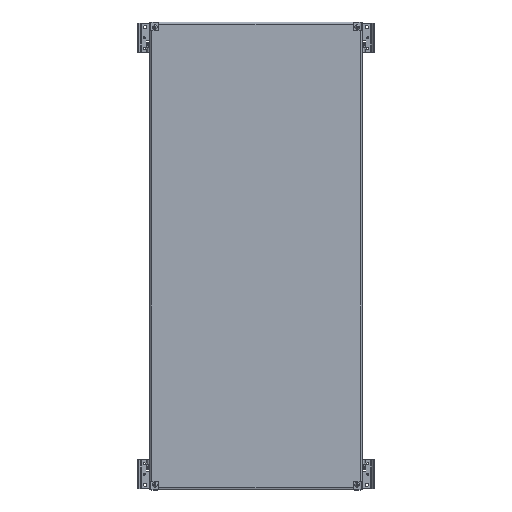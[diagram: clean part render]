
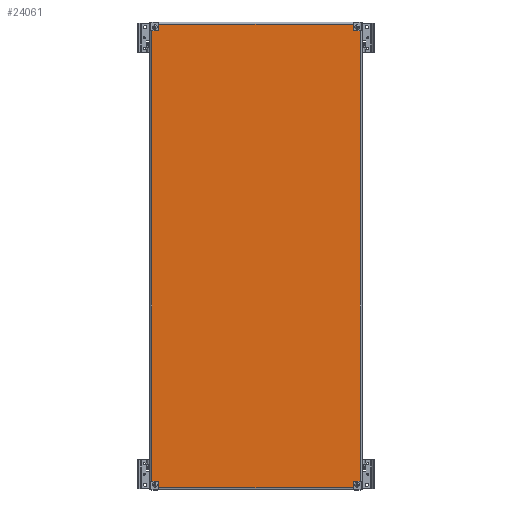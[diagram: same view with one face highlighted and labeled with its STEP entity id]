
A CAD part, top view. The second image highlights one B-rep face of the part: STEP entity #24061.
In plain terms, the highlighted planar face has unit normal (0, 0, 1).
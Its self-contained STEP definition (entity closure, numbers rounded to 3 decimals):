
#307 = CIRCLE ( 'NONE', #35232, 1. ) ;
#829 = CARTESIAN_POINT ( 'NONE',  ( -249.5, -528.5, 0. ) ) ;
#1265 = LINE ( 'NONE', #25550, #24533 ) ;
#1349 = DIRECTION ( 'NONE',  ( 1., 0., 0. ) ) ;
#2084 = ORIENTED_EDGE ( 'NONE', *, *, #20077, .T. ) ;
#2680 = EDGE_CURVE ( 'NONE', #4541, #9790, #37026, .T. ) ;
#2943 = EDGE_CURVE ( 'NONE', #20152, #29616, #3970, .T. ) ;
#3135 = VECTOR ( 'NONE', #37993, 1000. ) ;
#3156 = CARTESIAN_POINT ( 'NONE',  ( 229.5, -528.5, 0. ) ) ;
#3439 = LINE ( 'NONE', #3669, #5700 ) ;
#3667 = DIRECTION ( 'NONE',  ( 1., 0., 0. ) ) ;
#3669 = CARTESIAN_POINT ( 'NONE',  ( -228.5, 549.5, 0. ) ) ;
#3675 = DIRECTION ( 'NONE',  ( 1., 0., 0. ) ) ;
#3838 = VERTEX_POINT ( 'NONE', #13347 ) ;
#3970 = LINE ( 'NONE', #13861, #12616 ) ;
#4108 = CARTESIAN_POINT ( 'NONE',  ( -228.5, -529.5, 0. ) ) ;
#4447 = EDGE_CURVE ( 'NONE', #13317, #6078, #18718, .T. ) ;
#4541 = VERTEX_POINT ( 'NONE', #28493 ) ;
#4635 = CARTESIAN_POINT ( 'NONE',  ( -229.5, 529.5, 0. ) ) ;
#4654 = CARTESIAN_POINT ( 'NONE',  ( -228.5, -544.5, 0. ) ) ;
#4767 = DIRECTION ( 'NONE',  ( 0., 0., -1. ) ) ;
#5269 = VERTEX_POINT ( 'NONE', #8657 ) ;
#5278 = DIRECTION ( 'NONE',  ( -1., 0., 0. ) ) ;
#5559 = VECTOR ( 'NONE', #3675, 1000. ) ;
#5700 = VECTOR ( 'NONE', #10457, 1000. ) ;
#5885 = LINE ( 'NONE', #39952, #28232 ) ;
#6078 = VERTEX_POINT ( 'NONE', #4108 ) ;
#6410 = EDGE_CURVE ( 'NONE', #38338, #3838, #29390, .T. ) ;
#6541 = CARTESIAN_POINT ( 'NONE',  ( -244.5, 528.5, 0. ) ) ;
#6756 = LINE ( 'NONE', #9629, #24923 ) ;
#7581 = EDGE_CURVE ( 'NONE', #26055, #27630, #5885, .T. ) ;
#8041 = EDGE_CURVE ( 'NONE', #23481, #20444, #33515, .T. ) ;
#8657 = CARTESIAN_POINT ( 'NONE',  ( 229.5, 528.5, 0. ) ) ;
#8792 = ORIENTED_EDGE ( 'NONE', *, *, #34959, .F. ) ;
#9063 = AXIS2_PLACEMENT_3D ( 'NONE', #34927, #25171, #38068 ) ;
#9629 = CARTESIAN_POINT ( 'NONE',  ( 249.5, 528.5, 0. ) ) ;
#9745 = AXIS2_PLACEMENT_3D ( 'NONE', #17946, #4767, #14464 ) ;
#9790 = VERTEX_POINT ( 'NONE', #23060 ) ;
#10327 = ORIENTED_EDGE ( 'NONE', *, *, #31707, .F. ) ;
#10457 = DIRECTION ( 'NONE',  ( 0., 1., 0. ) ) ;
#10612 = CARTESIAN_POINT ( 'NONE',  ( 244.5, -528.5, 0. ) ) ;
#11028 = CARTESIAN_POINT ( 'NONE',  ( 228.5, 549.5, 0. ) ) ;
#11420 = VECTOR ( 'NONE', #13719, 1000. ) ;
#11786 = CARTESIAN_POINT ( 'NONE',  ( 228.5, -529.5, 0. ) ) ;
#11876 = LINE ( 'NONE', #18678, #26070 ) ;
#11931 = EDGE_LOOP ( 'NONE', ( #35962, #2084, #40195, #33862, #23276, #27510, #10327, #20654, #8792, #37826, #16332, #15241, #30892, #37135, #14013, #23684 ) ) ;
#11978 = CARTESIAN_POINT ( 'NONE',  ( -229.5, -528.5, 0. ) ) ;
#12203 = EDGE_CURVE ( 'NONE', #23481, #30712, #11876, .T. ) ;
#12298 = VECTOR ( 'NONE', #25948, 1000. ) ;
#12616 = VECTOR ( 'NONE', #38848, 1000. ) ;
#13107 = LINE ( 'NONE', #11028, #11420 ) ;
#13317 = VERTEX_POINT ( 'NONE', #11978 ) ;
#13347 = CARTESIAN_POINT ( 'NONE',  ( -244.5, -528.5, 0. ) ) ;
#13719 = DIRECTION ( 'NONE',  ( 0., -1., 0. ) ) ;
#13861 = CARTESIAN_POINT ( 'NONE',  ( 244.5, -528.5, 0. ) ) ;
#13933 = CARTESIAN_POINT ( 'NONE',  ( -229.5, -529.5, 0. ) ) ;
#14013 = ORIENTED_EDGE ( 'NONE', *, *, #23607, .F. ) ;
#14098 = EDGE_CURVE ( 'NONE', #20152, #20444, #1265, .T. ) ;
#14464 = DIRECTION ( 'NONE',  ( 1., 0., 0. ) ) ;
#15147 = CARTESIAN_POINT ( 'NONE',  ( -244.5, 528.5, 0. ) ) ;
#15241 = ORIENTED_EDGE ( 'NONE', *, *, #2680, .T. ) ;
#15502 = VERTEX_POINT ( 'NONE', #19722 ) ;
#15532 = EDGE_CURVE ( 'NONE', #4541, #27630, #3439, .T. ) ;
#15927 = AXIS2_PLACEMENT_3D ( 'NONE', #4635, #33692, #17213 ) ;
#16251 = DIRECTION ( 'NONE',  ( 0., -1., 0. ) ) ;
#16332 = ORIENTED_EDGE ( 'NONE', *, *, #15532, .F. ) ;
#16621 = DIRECTION ( 'NONE',  ( 0., 0., -1. ) ) ;
#17213 = DIRECTION ( 'NONE',  ( 1., 0., 0. ) ) ;
#17627 = LINE ( 'NONE', #4654, #29913 ) ;
#17946 = CARTESIAN_POINT ( 'NONE',  ( 229.5, -529.5, 0. ) ) ;
#18678 = CARTESIAN_POINT ( 'NONE',  ( 228.5, -549.5, 0. ) ) ;
#18718 = CIRCLE ( 'NONE', #27289, 1. ) ;
#18775 = EDGE_CURVE ( 'NONE', #38338, #9790, #34791, .T. ) ;
#19478 = EDGE_CURVE ( 'NONE', #5269, #33094, #307, .T. ) ;
#19722 = CARTESIAN_POINT ( 'NONE',  ( -228.5, -544.5, 0. ) ) ;
#20077 = EDGE_CURVE ( 'NONE', #15502, #30712, #17627, .T. ) ;
#20152 = VERTEX_POINT ( 'NONE', #10612 ) ;
#20444 = VERTEX_POINT ( 'NONE', #3156 ) ;
#20654 = ORIENTED_EDGE ( 'NONE', *, *, #19478, .T. ) ;
#20704 = DIRECTION ( 'NONE',  ( 1., 0., 0. ) ) ;
#20724 = PLANE ( 'NONE',  #9063 ) ;
#20811 = CARTESIAN_POINT ( 'NONE',  ( 228.5, 529.5, 0. ) ) ;
#23060 = CARTESIAN_POINT ( 'NONE',  ( -229.5, 528.5, 0. ) ) ;
#23276 = ORIENTED_EDGE ( 'NONE', *, *, #14098, .F. ) ;
#23481 = VERTEX_POINT ( 'NONE', #11786 ) ;
#23607 = EDGE_CURVE ( 'NONE', #13317, #3838, #25537, .T. ) ;
#23684 = ORIENTED_EDGE ( 'NONE', *, *, #4447, .T. ) ;
#24061 = ADVANCED_FACE ( 'NONE', ( #36449 ), #20724, .T. ) ;
#24401 = CARTESIAN_POINT ( 'NONE',  ( -228.5, 544.5, 0. ) ) ;
#24533 = VECTOR ( 'NONE', #31996, 1000. ) ;
#24923 = VECTOR ( 'NONE', #3667, 1000. ) ;
#25171 = DIRECTION ( 'NONE',  ( 0., 0., 1. ) ) ;
#25537 = LINE ( 'NONE', #829, #12298 ) ;
#25550 = CARTESIAN_POINT ( 'NONE',  ( 249.5, -528.5, 0. ) ) ;
#25948 = DIRECTION ( 'NONE',  ( -1., 0., 0. ) ) ;
#26055 = VERTEX_POINT ( 'NONE', #31568 ) ;
#26070 = VECTOR ( 'NONE', #27741, 1000. ) ;
#27289 = AXIS2_PLACEMENT_3D ( 'NONE', #13933, #16621, #1349 ) ;
#27494 = LINE ( 'NONE', #40331, #3135 ) ;
#27510 = ORIENTED_EDGE ( 'NONE', *, *, #2943, .T. ) ;
#27630 = VERTEX_POINT ( 'NONE', #24401 ) ;
#27741 = DIRECTION ( 'NONE',  ( 0., -1., 0. ) ) ;
#28232 = VECTOR ( 'NONE', #5278, 1000. ) ;
#28493 = CARTESIAN_POINT ( 'NONE',  ( -228.5, 529.5, 0. ) ) ;
#29187 = CARTESIAN_POINT ( 'NONE',  ( -249.5, 528.5, 0. ) ) ;
#29390 = LINE ( 'NONE', #6541, #29650 ) ;
#29616 = VERTEX_POINT ( 'NONE', #39361 ) ;
#29650 = VECTOR ( 'NONE', #16251, 1000. ) ;
#29913 = VECTOR ( 'NONE', #20704, 1000. ) ;
#30712 = VERTEX_POINT ( 'NONE', #35723 ) ;
#30892 = ORIENTED_EDGE ( 'NONE', *, *, #18775, .F. ) ;
#31568 = CARTESIAN_POINT ( 'NONE',  ( 228.5, 544.5, 0. ) ) ;
#31707 = EDGE_CURVE ( 'NONE', #5269, #29616, #6756, .T. ) ;
#31996 = DIRECTION ( 'NONE',  ( -1., 0., 0. ) ) ;
#32421 = DIRECTION ( 'NONE',  ( 1., 0., 0. ) ) ;
#33053 = DIRECTION ( 'NONE',  ( 0., 0., -1. ) ) ;
#33094 = VERTEX_POINT ( 'NONE', #20811 ) ;
#33515 = CIRCLE ( 'NONE', #9745, 1. ) ;
#33692 = DIRECTION ( 'NONE',  ( 0., 0., -1. ) ) ;
#33862 = ORIENTED_EDGE ( 'NONE', *, *, #8041, .T. ) ;
#34791 = LINE ( 'NONE', #29187, #5559 ) ;
#34927 = CARTESIAN_POINT ( 'NONE',  ( 0., 0., 0. ) ) ;
#34959 = EDGE_CURVE ( 'NONE', #26055, #33094, #13107, .T. ) ;
#35232 = AXIS2_PLACEMENT_3D ( 'NONE', #36180, #33053, #32421 ) ;
#35723 = CARTESIAN_POINT ( 'NONE',  ( 228.5, -544.5, 0. ) ) ;
#35962 = ORIENTED_EDGE ( 'NONE', *, *, #38288, .F. ) ;
#36180 = CARTESIAN_POINT ( 'NONE',  ( 229.5, 529.5, 0. ) ) ;
#36449 = FACE_OUTER_BOUND ( 'NONE', #11931, .T. ) ;
#37026 = CIRCLE ( 'NONE', #15927, 1. ) ;
#37135 = ORIENTED_EDGE ( 'NONE', *, *, #6410, .T. ) ;
#37826 = ORIENTED_EDGE ( 'NONE', *, *, #7581, .T. ) ;
#37993 = DIRECTION ( 'NONE',  ( 0., 1., 0. ) ) ;
#38068 = DIRECTION ( 'NONE',  ( 1., 0., 0. ) ) ;
#38288 = EDGE_CURVE ( 'NONE', #15502, #6078, #27494, .T. ) ;
#38338 = VERTEX_POINT ( 'NONE', #15147 ) ;
#38848 = DIRECTION ( 'NONE',  ( 0., 1., 0. ) ) ;
#39361 = CARTESIAN_POINT ( 'NONE',  ( 244.5, 528.5, 0. ) ) ;
#39952 = CARTESIAN_POINT ( 'NONE',  ( 228.5, 544.5, 0. ) ) ;
#40195 = ORIENTED_EDGE ( 'NONE', *, *, #12203, .F. ) ;
#40331 = CARTESIAN_POINT ( 'NONE',  ( -228.5, -549.5, 0. ) ) ;
